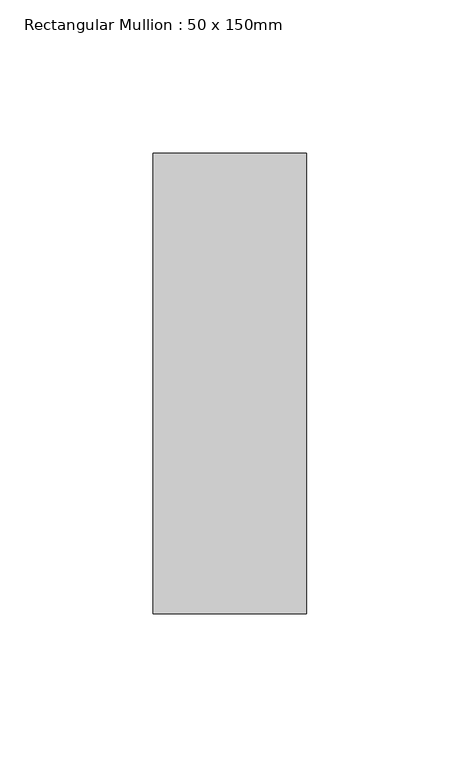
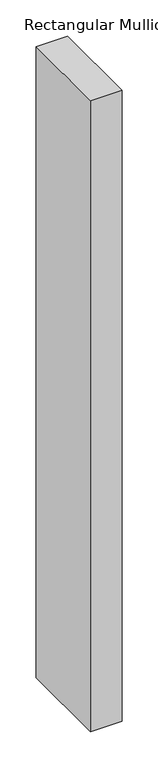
"""IFC4 building model written with IfcOpenShell, lengths in millimetres: member geometry, Rectangular Mullion : 50 x 150mm."""

from ifc_helpers import new_model, si_unit, frame, origin, place, context, project, spatial, polyline, outline, extrude, source, transform, mapped, element, save


def rectangular_mullion_50_x_150mm_a13478d5(model_context):
    return source(origin(), model_context, "Body", "SweptSolid", [
        extrude(outline(polyline([(0.0, 75.0), (0.0, -75.0), (-50.0, -75.0), (-50.0, 75.0), (0.0, 75.0)])), frame((0.0, 0.0, -1062.8056986), z_axis=(0.0, 0.0, 1.0), x_axis=(1.0, 0.0, 0.0)), (0.0, 0.0, 1.0), 1062.8056986),
    ])


if __name__ == "__main__":
    model = new_model("IFC4")
    model_context = context("Model", 3, world=origin())
    ifc_project = project(units=[si_unit("LENGTHUNIT", "METRE", prefix="MILLI")], contexts=[model_context])
    site = spatial("IfcSite", under=ifc_project)
    building = spatial("IfcBuilding", under=site)
    placement = place(None, origin())
    rectangular_mullion_50_x_150mm_shape = rectangular_mullion_50_x_150mm_a13478d5(model_context)
    element("IfcMember", 1, ObjectType="Rectangular Mullion : 50 x 150mm", at=placement, inside=building, context=model_context, shape_type="MappedRepresentation", body=[
        mapped(rectangular_mullion_50_x_150mm_shape, transform((0.0, 0.0, 0.0), x_axis=(1.0, 0.0, 0.0), y_axis=(0.0, 1.0, 0.0), z_axis=(0.0, 0.0, 1.0))),
    ])
    save(model, "model.ifc")
